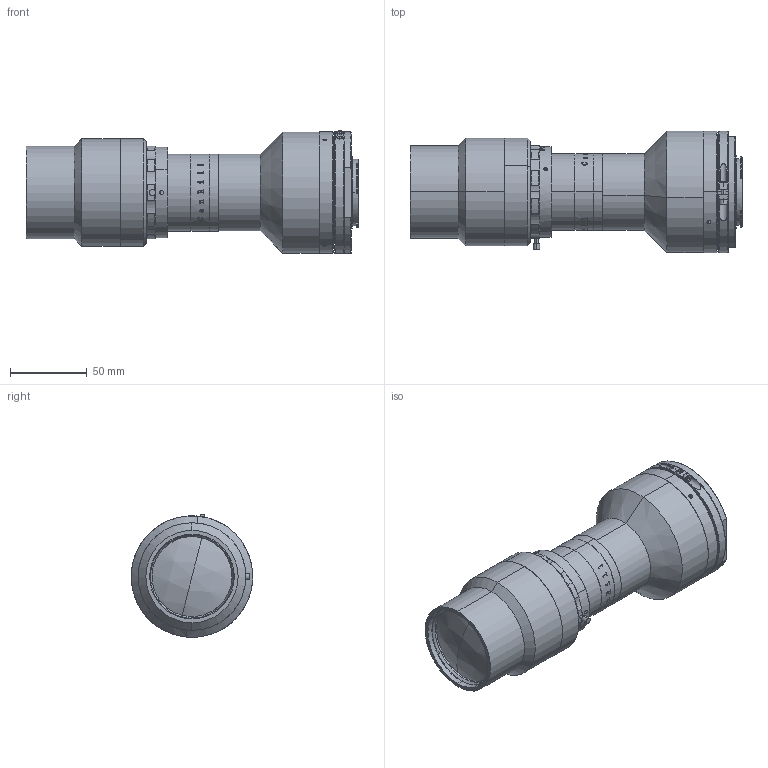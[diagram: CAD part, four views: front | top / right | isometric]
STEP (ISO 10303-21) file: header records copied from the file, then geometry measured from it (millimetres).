
FILE_DESCRIPTION (( 'STEP AP203' ), '1' );
FILE_NAME ('XF-PTL03732-F-VI.STEP', '2019-07-22T01:35:48', ( 'lawlynn' ), ( '' ), 'SwSTEP 2.0', 'SolidWorks 2014', '' );
FILE_SCHEMA (( 'CONFIG_CONTROL_DESIGN' ));
Length unit declared in the file: millimetre
Products named in the file (1): XF-PTL03732-F-VI
Bounding box: 215.8 x 79 x 79.75 mm (x, y, z)
Surface area: 75492.8 mm2 (no closed solid volume)
Topology: 0 solids, 33 shells, 299 faces, 1418 edges, 1142 vertices
Faces by surface type: cylinder 127, plane 108, cone 40, bspline 12, torus 8, sphere 4
Entity records: 23274 total; most frequent: CARTESIAN_POINT 12608, DIRECTION 2048, ORIENTED_EDGE 1952, EDGE_CURVE 1416, VERTEX_POINT 1142, AXIS2_PLACEMENT_3D 790, CIRCLE 502, VECTOR 468
